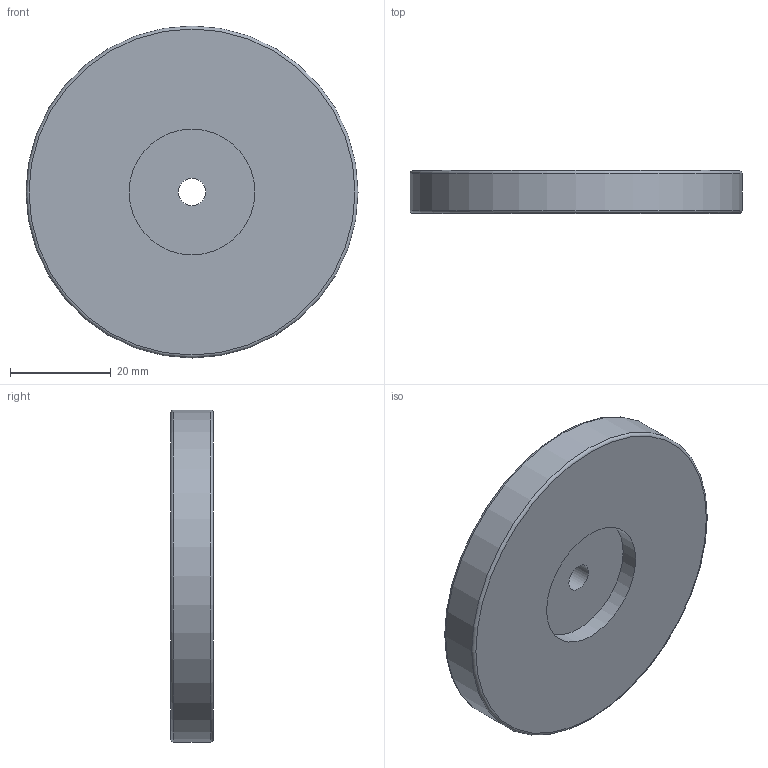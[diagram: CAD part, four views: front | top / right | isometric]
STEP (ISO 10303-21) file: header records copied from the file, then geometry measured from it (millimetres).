
FILE_DESCRIPTION( ( 'STEP AP203' ), '1' );
FILE_NAME( 'C:/Temp/Ganter_Step_05_03_2020/data/3_9/gn51_4/Retaining magnet GN 51.4-ND-66-SW.stp', '2020-03-10T07:42:02', ( 'License CC BY-ND 4.0' ), ( 'CADENAS' ), ' ', 'PARTsolutions', ' ' );
FILE_SCHEMA( ( 'CONFIG_CONTROL_DESIGN' ) );
Length unit declared in the file: millimetre
Products named in the file (1): _Retaining magnet GN 51.4-ND-66-SW
Bounding box: 66 x 8.5 x 66 mm (x, y, z)
Volume: 27122.1 mm3; surface area: 8831.9 mm2
Topology: 1 solids, 1 shells, 10 faces, 16 edges, 10 vertices
Faces by surface type: plane 4, cylinder 4, torus 2
Full cylindrical faces by diameter (mm): 5.5 x1, 12 x1, 25 x1, 66 x1
Entity records: 252 total; most frequent: DIRECTION 42, CARTESIAN_POINT 31, AXIS2_PLACEMENT_3D 21, EDGE_LOOP 20, ORIENTED_EDGE 20, FACE_OUTER_BOUND 16, ADVANCED_FACE 10, EDGE_CURVE 10
